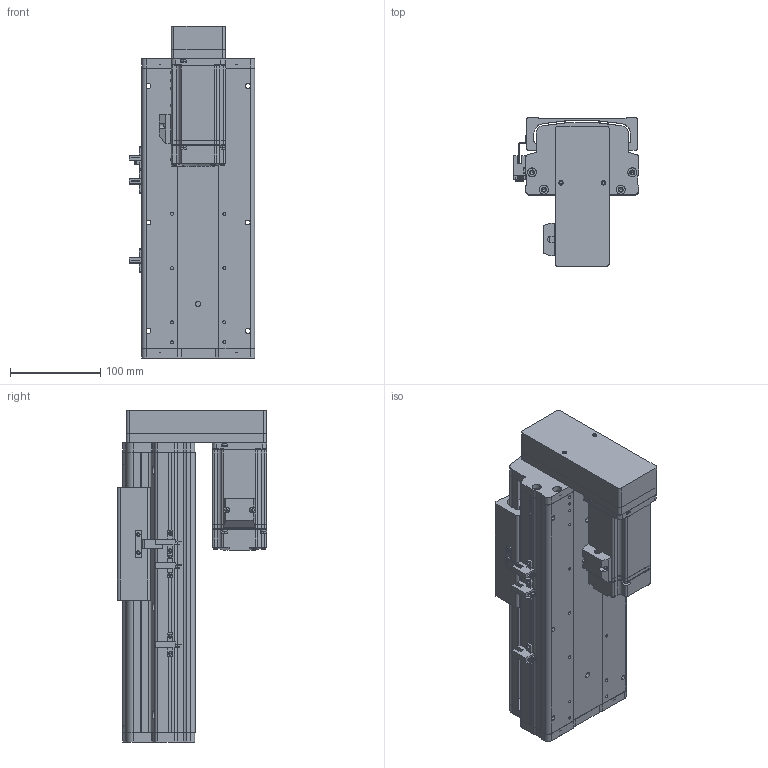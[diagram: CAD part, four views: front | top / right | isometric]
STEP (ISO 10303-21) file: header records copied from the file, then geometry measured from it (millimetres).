
FILE_DESCRIPTION (( 'STEP AP214' ), '1' );
FILE_NAME ('KSD125S-S100-MD-CM.STEP', '2017-10-21T07:55:06', ( '微软用户' ), ( '微软中国' ), 'SwSTEP 2.0', 'SolidWorks 2014', '' );
FILE_SCHEMA (( 'AUTOMOTIVE_DESIGN' ));
Length unit declared in the file: millimetre
Products named in the file (15): 125宽马达安装板连板上下折丝杆同步带; 125遵悵誘欶奻狟殏; HTPA30S3M150_A_H6_a佪裝蚚; HTPA30S3M150_A_H6_a萇儂蚚; MHMD042G1CA_2_03; KSD125S-100俴最佪裝滅鳥裔; KSD125S-100俴最佪裝菁啣; 拸萇儂釱滅袉菜; 覜茼え68遵圉猾敕; U倰嫖萇假蚾璃; U倰嫖萇EEㄜSX672; ヶ傷啣-125遵耀郪; KSD125-賑雄釱1; 125-帣傷啣1; KSD125S-S100-MD-CM
Assembly tree (18 placements, depth 2):
  KSD125S-S100-MD-CM
    125-帣傷啣1
    KSD125-賑雄釱1
    ヶ傷啣-125遵耀郪
    U倰嫖萇EEㄜSX672  x3
    U倰嫖萇假蚾璃  x3
    覜茼え68遵圉猾敕
    拸萇儂釱滅袉菜
    KSD125S-100俴最佪裝菁啣
    KSD125S-100俴最佪裝滅鳥裔
    MHMD042G1CA_2_03
    HTPA30S3M150_A_H6_a萇儂蚚
    HTPA30S3M150_A_H6_a佪裝蚚
    125遵悵誘欶奻狟殏
    125宽马达安装板连板上下折丝杆同步带
Bounding box: 138.7 x 165 x 367.5 mm (x, y, z)
Volume: 1546026.1 mm3; surface area: 563551.6 mm2
Topology: 17 solids, 20 shells, 2105 faces, 6107 edges, 4029 vertices
Faces by surface type: cylinder 1303, plane 665, cone 115, bspline 22
Entity records: 74878 total; most frequent: CARTESIAN_POINT 15104, DIRECTION 11529, ORIENTED_EDGE 10722, EDGE_CURVE 5439, AXIS2_PLACEMENT_3D 4444, VERTEX_POINT 3621, LINE 2641, VECTOR 2641
